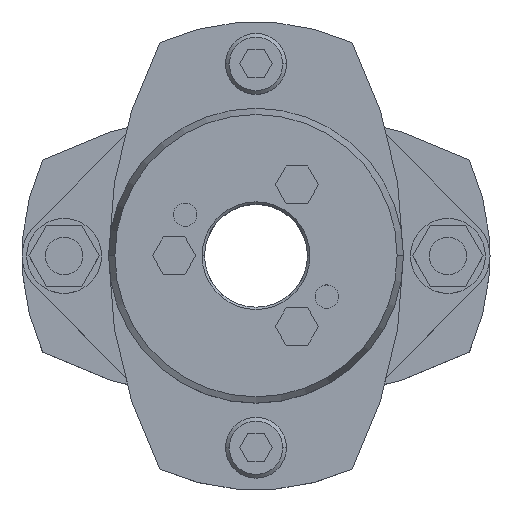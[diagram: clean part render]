
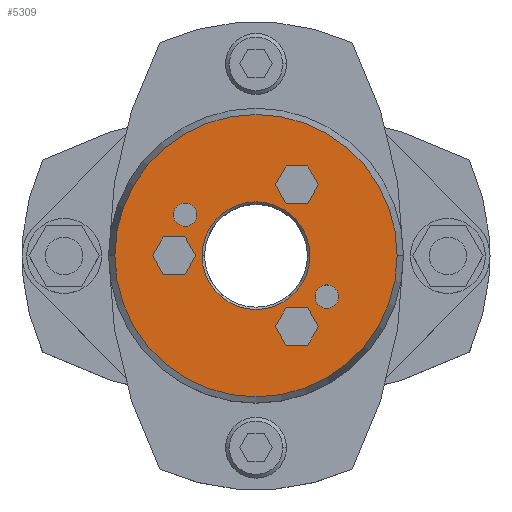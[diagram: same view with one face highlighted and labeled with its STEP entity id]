
A CAD part, top view. The second image highlights one B-rep face of the part: STEP entity #5309.
In plain terms, the highlighted planar face has unit normal (0, 0, 1).
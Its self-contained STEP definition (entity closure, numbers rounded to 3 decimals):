
#857=CARTESIAN_POINT('',(-11.5,0.,42.0));
#858=VERTEX_POINT('',#857);
#874=CARTESIAN_POINT('',(11.5,0.,42.0));
#875=VERTEX_POINT('',#874);
#882=CARTESIAN_POINT('',(0.,0.,42.0));
#883=DIRECTION('',(0.0,0.0,1.0));
#884=DIRECTION('',(-1.0,0.0,0.0));
#885=AXIS2_PLACEMENT_3D('',#882,#883,#884);
#886=CIRCLE('',#885,11.5);
#887=EDGE_CURVE('',#875,#858,#886,.T.);
#1045=CARTESIAN_POINT('',(30.16,0.,42.0));
#1046=VERTEX_POINT('',#1045);
#1053=CARTESIAN_POINT('',(-30.16,0.,42.0));
#1054=VERTEX_POINT('',#1053);
#1055=CARTESIAN_POINT('',(0.,0.,42.0));
#1056=DIRECTION('',(0.0,0.0,-1.0));
#1057=DIRECTION('',(1.0,0.0,0.0));
#1058=AXIS2_PLACEMENT_3D('',#1055,#1056,#1057);
#1059=CIRCLE('',#1058,30.16);
#1060=EDGE_CURVE('',#1046,#1054,#1059,.T.);
#1155=CARTESIAN_POINT('',(-17.655,8.75,42.0));
#1156=VERTEX_POINT('',#1155);
#1172=CARTESIAN_POINT('',(-12.655,8.75,42.0));
#1173=VERTEX_POINT('',#1172);
#1180=CARTESIAN_POINT('',(-15.155,8.75,42.0));
#1181=DIRECTION('',(0.0,0.0,-1.0));
#1182=DIRECTION('',(-1.0,0.0,0.0));
#1183=AXIS2_PLACEMENT_3D('',#1180,#1181,#1182);
#1184=CIRCLE('',#1183,2.5);
#1185=EDGE_CURVE('',#1156,#1173,#1184,.T.);
#1197=CARTESIAN_POINT('',(12.655,-8.75,42.0));
#1198=VERTEX_POINT('',#1197);
#1214=CARTESIAN_POINT('',(17.655,-8.75,42.0));
#1215=VERTEX_POINT('',#1214);
#1222=CARTESIAN_POINT('',(15.155,-8.75,42.0));
#1223=DIRECTION('',(0.0,0.0,-1.0));
#1224=DIRECTION('',(-1.0,0.0,0.0));
#1225=AXIS2_PLACEMENT_3D('',#1222,#1223,#1224);
#1226=CIRCLE('',#1225,2.5);
#1227=EDGE_CURVE('',#1198,#1215,#1226,.T.);
#4336=CARTESIAN_POINT('',(15.155,-8.75,42.0));
#4337=DIRECTION('',(0.0,0.0,-1.0));
#4338=DIRECTION('',(-1.0,0.0,0.0));
#4339=AXIS2_PLACEMENT_3D('',#4336,#4337,#4338);
#4340=CIRCLE('',#4339,2.5);
#4341=EDGE_CURVE('',#1215,#1198,#4340,.T.);
#4370=CARTESIAN_POINT('',(-15.155,8.75,42.0));
#4371=DIRECTION('',(0.0,0.0,-1.0));
#4372=DIRECTION('',(-1.0,0.0,0.0));
#4373=AXIS2_PLACEMENT_3D('',#4370,#4371,#4372);
#4374=CIRCLE('',#4373,2.5);
#4375=EDGE_CURVE('',#1173,#1156,#4374,.T.);
#4413=CARTESIAN_POINT('',(4.131,-15.155,42.0));
#4414=VERTEX_POINT('',#4413);
#4421=CARTESIAN_POINT('',(6.441,-19.155,42.0));
#4422=VERTEX_POINT('',#4421);
#4423=CARTESIAN_POINT('',(6.441,-19.155,42.0));
#4424=DIRECTION('',(-0.5,0.866,0.0));
#4425=VECTOR('',#4424,4.619);
#4426=LINE('',#4423,#4425);
#4427=EDGE_CURVE('',#4422,#4414,#4426,.T.);
#4451=CARTESIAN_POINT('',(6.441,-11.155,42.0));
#4452=VERTEX_POINT('',#4451);
#4459=CARTESIAN_POINT('',(4.131,-15.155,42.0));
#4460=DIRECTION('',(0.5,0.866,0.0));
#4461=VECTOR('',#4460,4.619);
#4462=LINE('',#4459,#4461);
#4463=EDGE_CURVE('',#4414,#4452,#4462,.T.);
#4482=CARTESIAN_POINT('',(11.059,-11.155,42.0));
#4483=VERTEX_POINT('',#4482);
#4490=CARTESIAN_POINT('',(6.441,-11.155,42.0));
#4491=DIRECTION('',(1.0,0.0,0.0));
#4492=VECTOR('',#4491,4.619);
#4493=LINE('',#4490,#4492);
#4494=EDGE_CURVE('',#4452,#4483,#4493,.T.);
#4513=CARTESIAN_POINT('',(13.369,-15.155,42.0));
#4514=VERTEX_POINT('',#4513);
#4521=CARTESIAN_POINT('',(11.059,-11.155,42.0));
#4522=DIRECTION('',(0.5,-0.866,0.0));
#4523=VECTOR('',#4522,4.619);
#4524=LINE('',#4521,#4523);
#4525=EDGE_CURVE('',#4483,#4514,#4524,.T.);
#4544=CARTESIAN_POINT('',(11.059,-19.155,42.0));
#4545=VERTEX_POINT('',#4544);
#4552=CARTESIAN_POINT('',(13.369,-15.155,42.0));
#4553=DIRECTION('',(-0.5,-0.866,0.0));
#4554=VECTOR('',#4553,4.619);
#4555=LINE('',#4552,#4554);
#4556=EDGE_CURVE('',#4514,#4545,#4555,.T.);
#4574=CARTESIAN_POINT('',(11.059,-19.155,42.0));
#4575=DIRECTION('',(-1.0,0.0,0.0));
#4576=VECTOR('',#4575,4.619);
#4577=LINE('',#4574,#4576);
#4578=EDGE_CURVE('',#4545,#4422,#4577,.T.);
#4613=CARTESIAN_POINT('',(-22.119,0.,42.0));
#4614=VERTEX_POINT('',#4613);
#4621=CARTESIAN_POINT('',(-19.809,-4.,42.0));
#4622=VERTEX_POINT('',#4621);
#4623=CARTESIAN_POINT('',(-19.809,-4.,42.0));
#4624=DIRECTION('',(-0.5,0.866,0.0));
#4625=VECTOR('',#4624,4.619);
#4626=LINE('',#4623,#4625);
#4627=EDGE_CURVE('',#4622,#4614,#4626,.T.);
#4651=CARTESIAN_POINT('',(-19.809,4.,42.0));
#4652=VERTEX_POINT('',#4651);
#4659=CARTESIAN_POINT('',(-22.119,0.,42.0));
#4660=DIRECTION('',(0.5,0.866,0.0));
#4661=VECTOR('',#4660,4.619);
#4662=LINE('',#4659,#4661);
#4663=EDGE_CURVE('',#4614,#4652,#4662,.T.);
#4682=CARTESIAN_POINT('',(-15.191,4.,42.0));
#4683=VERTEX_POINT('',#4682);
#4690=CARTESIAN_POINT('',(-19.809,4.,42.0));
#4691=DIRECTION('',(1.0,0.0,0.0));
#4692=VECTOR('',#4691,4.619);
#4693=LINE('',#4690,#4692);
#4694=EDGE_CURVE('',#4652,#4683,#4693,.T.);
#4713=CARTESIAN_POINT('',(-12.881,0.,42.0));
#4714=VERTEX_POINT('',#4713);
#4721=CARTESIAN_POINT('',(-15.191,4.,42.0));
#4722=DIRECTION('',(0.5,-0.866,0.0));
#4723=VECTOR('',#4722,4.619);
#4724=LINE('',#4721,#4723);
#4725=EDGE_CURVE('',#4683,#4714,#4724,.T.);
#4744=CARTESIAN_POINT('',(-15.191,-4.,42.0));
#4745=VERTEX_POINT('',#4744);
#4752=CARTESIAN_POINT('',(-12.881,0.,42.0));
#4753=DIRECTION('',(-0.5,-0.866,0.0));
#4754=VECTOR('',#4753,4.619);
#4755=LINE('',#4752,#4754);
#4756=EDGE_CURVE('',#4714,#4745,#4755,.T.);
#4774=CARTESIAN_POINT('',(-15.191,-4.,42.0));
#4775=DIRECTION('',(-1.0,0.0,0.0));
#4776=VECTOR('',#4775,4.619);
#4777=LINE('',#4774,#4776);
#4778=EDGE_CURVE('',#4745,#4622,#4777,.T.);
#4813=CARTESIAN_POINT('',(4.131,15.155,42.0));
#4814=VERTEX_POINT('',#4813);
#4821=CARTESIAN_POINT('',(6.441,11.155,42.0));
#4822=VERTEX_POINT('',#4821);
#4823=CARTESIAN_POINT('',(6.441,11.155,42.0));
#4824=DIRECTION('',(-0.5,0.866,0.0));
#4825=VECTOR('',#4824,4.619);
#4826=LINE('',#4823,#4825);
#4827=EDGE_CURVE('',#4822,#4814,#4826,.T.);
#4851=CARTESIAN_POINT('',(6.441,19.155,42.0));
#4852=VERTEX_POINT('',#4851);
#4859=CARTESIAN_POINT('',(4.131,15.155,42.0));
#4860=DIRECTION('',(0.5,0.866,0.0));
#4861=VECTOR('',#4860,4.619);
#4862=LINE('',#4859,#4861);
#4863=EDGE_CURVE('',#4814,#4852,#4862,.T.);
#4882=CARTESIAN_POINT('',(11.059,19.155,42.0));
#4883=VERTEX_POINT('',#4882);
#4890=CARTESIAN_POINT('',(6.441,19.155,42.0));
#4891=DIRECTION('',(1.0,0.0,0.0));
#4892=VECTOR('',#4891,4.619);
#4893=LINE('',#4890,#4892);
#4894=EDGE_CURVE('',#4852,#4883,#4893,.T.);
#4913=CARTESIAN_POINT('',(13.369,15.155,42.0));
#4914=VERTEX_POINT('',#4913);
#4921=CARTESIAN_POINT('',(11.059,19.155,42.0));
#4922=DIRECTION('',(0.5,-0.866,0.0));
#4923=VECTOR('',#4922,4.619);
#4924=LINE('',#4921,#4923);
#4925=EDGE_CURVE('',#4883,#4914,#4924,.T.);
#4944=CARTESIAN_POINT('',(11.059,11.155,42.0));
#4945=VERTEX_POINT('',#4944);
#4952=CARTESIAN_POINT('',(13.369,15.155,42.0));
#4953=DIRECTION('',(-0.5,-0.866,0.0));
#4954=VECTOR('',#4953,4.619);
#4955=LINE('',#4952,#4954);
#4956=EDGE_CURVE('',#4914,#4945,#4955,.T.);
#4974=CARTESIAN_POINT('',(11.059,11.155,42.0));
#4975=DIRECTION('',(-1.0,0.0,0.0));
#4976=VECTOR('',#4975,4.619);
#4977=LINE('',#4974,#4976);
#4978=EDGE_CURVE('',#4945,#4822,#4977,.T.);
#5248=CARTESIAN_POINT('',(0.,0.,42.0));
#5249=DIRECTION('',(0.0,0.0,-1.0));
#5250=DIRECTION('',(1.0,0.0,0.0));
#5251=AXIS2_PLACEMENT_3D('',#5248,#5249,#5250);
#5252=CIRCLE('',#5251,30.16);
#5253=EDGE_CURVE('',#1054,#1046,#5252,.T.);
#5258=CARTESIAN_POINT('',(-2.864,0.,42.0));
#5259=DIRECTION('',(0.0,0.0,1.0));
#5260=DIRECTION('',(-1.0,0.0,0.0));
#5261=AXIS2_PLACEMENT_3D('',#5258,#5259,#5260);
#5262=PLANE('',#5261);
#5263=ORIENTED_EDGE('',*,*,#5253,.F.);
#5264=ORIENTED_EDGE('',*,*,#1060,.F.);
#5265=EDGE_LOOP('',(#5263,#5264));
#5266=FACE_OUTER_BOUND('',#5265,.T.);
#5267=ORIENTED_EDGE('',*,*,#1227,.T.);
#5268=ORIENTED_EDGE('',*,*,#4341,.T.);
#5269=EDGE_LOOP('',(#5267,#5268));
#5270=FACE_BOUND('',#5269,.T.);
#5271=ORIENTED_EDGE('',*,*,#1185,.T.);
#5272=ORIENTED_EDGE('',*,*,#4375,.T.);
#5273=EDGE_LOOP('',(#5271,#5272));
#5274=FACE_BOUND('',#5273,.T.);
#5275=ORIENTED_EDGE('',*,*,#4427,.T.);
#5276=ORIENTED_EDGE('',*,*,#4463,.T.);
#5277=ORIENTED_EDGE('',*,*,#4494,.T.);
#5278=ORIENTED_EDGE('',*,*,#4525,.T.);
#5279=ORIENTED_EDGE('',*,*,#4556,.T.);
#5280=ORIENTED_EDGE('',*,*,#4578,.T.);
#5281=EDGE_LOOP('',(#5275,#5276,#5277,#5278,#5279,#5280));
#5282=FACE_BOUND('',#5281,.T.);
#5283=ORIENTED_EDGE('',*,*,#4627,.T.);
#5284=ORIENTED_EDGE('',*,*,#4663,.T.);
#5285=ORIENTED_EDGE('',*,*,#4694,.T.);
#5286=ORIENTED_EDGE('',*,*,#4725,.T.);
#5287=ORIENTED_EDGE('',*,*,#4756,.T.);
#5288=ORIENTED_EDGE('',*,*,#4778,.T.);
#5289=EDGE_LOOP('',(#5283,#5284,#5285,#5286,#5287,#5288));
#5290=FACE_BOUND('',#5289,.T.);
#5291=ORIENTED_EDGE('',*,*,#4827,.T.);
#5292=ORIENTED_EDGE('',*,*,#4863,.T.);
#5293=ORIENTED_EDGE('',*,*,#4894,.T.);
#5294=ORIENTED_EDGE('',*,*,#4925,.T.);
#5295=ORIENTED_EDGE('',*,*,#4956,.T.);
#5296=ORIENTED_EDGE('',*,*,#4978,.T.);
#5297=EDGE_LOOP('',(#5291,#5292,#5293,#5294,#5295,#5296));
#5298=FACE_BOUND('',#5297,.T.);
#5299=ORIENTED_EDGE('',*,*,#887,.F.);
#5300=CARTESIAN_POINT('',(0.,0.,42.0));
#5301=DIRECTION('',(0.0,0.0,1.0));
#5302=DIRECTION('',(-1.0,0.0,0.0));
#5303=AXIS2_PLACEMENT_3D('',#5300,#5301,#5302);
#5304=CIRCLE('',#5303,11.5);
#5305=EDGE_CURVE('',#858,#875,#5304,.T.);
#5306=ORIENTED_EDGE('',*,*,#5305,.F.);
#5307=EDGE_LOOP('',(#5299,#5306));
#5308=FACE_BOUND('',#5307,.T.);
#5309=ADVANCED_FACE('',(#5266,#5270,#5274,#5282,#5290,#5298,#5308),#5262,.T.);
